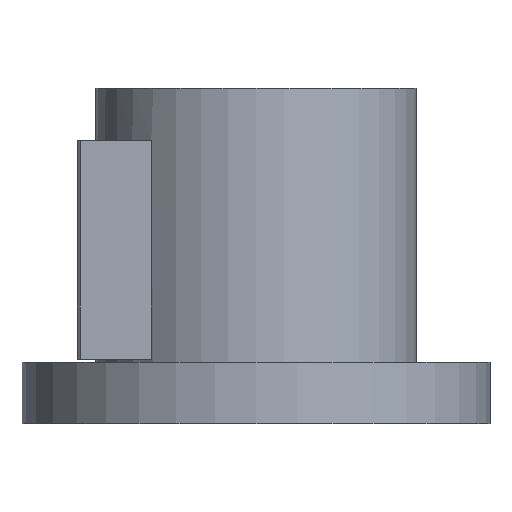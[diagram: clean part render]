
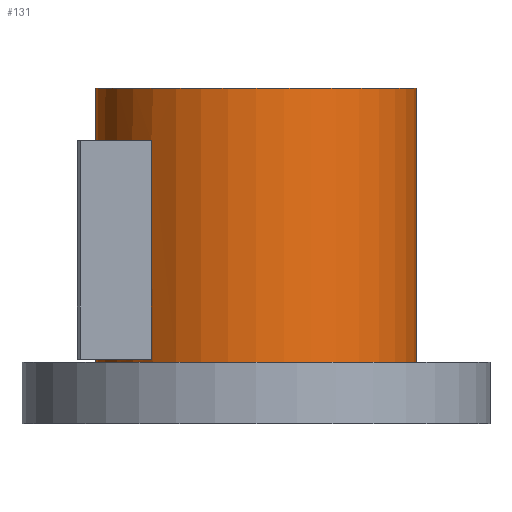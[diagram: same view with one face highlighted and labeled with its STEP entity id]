
A CAD part, front view. The second image highlights one B-rep face of the part: STEP entity #131.
In plain terms, the highlighted cylindrical face has radius 52 mm (diameter 104 mm), a full revolution.
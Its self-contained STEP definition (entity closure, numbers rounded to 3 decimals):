
#131=ADVANCED_FACE('',(#218,#219,#220),#161,.T.);
#161=CYLINDRICAL_SURFACE('',#550,52.);
#174=LINE('',#752,#196);
#175=LINE('',#756,#197);
#196=VECTOR('',#612,1.);
#197=VECTOR('',#615,1.);
#218=FACE_BOUND('',#263,.T.);
#219=FACE_BOUND('',#264,.T.);
#220=FACE_BOUND('',#265,.T.);
#263=EDGE_LOOP('',(#325));
#264=EDGE_LOOP('',(#326));
#265=EDGE_LOOP('',(#327,#328,#329,#330));
#325=ORIENTED_EDGE('',*,*,#467,.F.);
#326=ORIENTED_EDGE('',*,*,#468,.T.);
#327=ORIENTED_EDGE('',*,*,#469,.F.);
#328=ORIENTED_EDGE('',*,*,#470,.F.);
#329=ORIENTED_EDGE('',*,*,#471,.T.);
#330=ORIENTED_EDGE('',*,*,#472,.F.);
#425=VERTEX_POINT('',#746);
#426=VERTEX_POINT('',#748);
#427=VERTEX_POINT('',#750);
#428=VERTEX_POINT('',#751);
#429=VERTEX_POINT('',#753);
#430=VERTEX_POINT('',#755);
#467=EDGE_CURVE('',#425,#425,#517,.T.);
#468=EDGE_CURVE('',#426,#426,#518,.T.);
#469=EDGE_CURVE('',#427,#428,#519,.T.);
#470=EDGE_CURVE('',#429,#427,#174,.T.);
#471=EDGE_CURVE('',#429,#430,#520,.T.);
#472=EDGE_CURVE('',#428,#430,#175,.T.);
#517=CIRCLE('',#546,52.);
#518=CIRCLE('',#547,52.);
#519=CIRCLE('',#548,52.);
#520=CIRCLE('',#549,52.);
#546=AXIS2_PLACEMENT_3D('',#745,#606,#607);
#547=AXIS2_PLACEMENT_3D('',#747,#608,#609);
#548=AXIS2_PLACEMENT_3D('',#749,#610,#611);
#549=AXIS2_PLACEMENT_3D('',#754,#613,#614);
#550=AXIS2_PLACEMENT_3D('',#757,#616,#617);
#606=DIRECTION('',(0.,0.,1.));
#607=DIRECTION('',(1.,0.,0.));
#608=DIRECTION('',(0.,0.,1.));
#609=DIRECTION('',(1.,0.,0.));
#610=DIRECTION('',(0.,0.,-1.));
#611=DIRECTION('',(-1.,0.,0.));
#612=DIRECTION('',(0.,0.,1.));
#613=DIRECTION('',(0.,0.,-1.));
#614=DIRECTION('',(-1.,0.,0.));
#615=DIRECTION('',(0.,0.,-1.));
#616=DIRECTION('',(0.,0.,-1.));
#617=DIRECTION('',(-1.,0.,0.));
#745=CARTESIAN_POINT('',(0.,0.,109.));
#746=CARTESIAN_POINT('',(52.,0.,109.));
#747=CARTESIAN_POINT('',(0.,0.,20.));
#748=CARTESIAN_POINT('',(52.,0.,20.));
#749=CARTESIAN_POINT('',(0.,0.,92.));
#750=CARTESIAN_POINT('',(-34.,-39.345,92.));
#751=CARTESIAN_POINT('',(-34.,39.345,92.));
#752=CARTESIAN_POINT('',(-34.,-39.345,109.));
#753=CARTESIAN_POINT('',(-34.,-39.345,21.));
#754=CARTESIAN_POINT('',(0.,0.,21.));
#755=CARTESIAN_POINT('',(-34.,39.345,21.));
#756=CARTESIAN_POINT('',(-34.,39.345,109.));
#757=CARTESIAN_POINT('',(0.,0.,109.));
